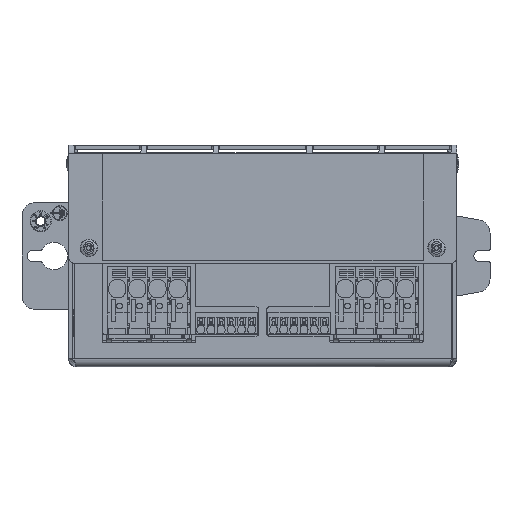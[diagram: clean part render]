
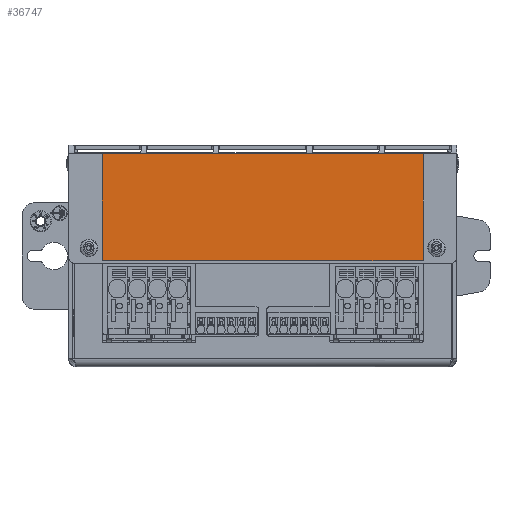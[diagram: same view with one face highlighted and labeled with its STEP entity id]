
A CAD part, front view. The second image highlights one B-rep face of the part: STEP entity #36747.
In plain terms, the highlighted planar face has unit normal (0, -1, 0) as drawn and (0, 0, 1) by its records, which use the part's own axes.
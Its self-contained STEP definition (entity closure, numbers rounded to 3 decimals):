
#1199 = LINE ( 'NONE', #109576, #131548 ) ;
#7418 = CARTESIAN_POINT ( 'NONE',  ( -60., -20., 0.1 ) ) ;
#10102 = AXIS2_PLACEMENT_3D ( 'NONE', #76496, #119944, #132078 ) ;
#19318 = EDGE_LOOP ( 'NONE', ( #132745, #62640, #80686, #79333 ) ) ;
#30245 = LINE ( 'NONE', #7418, #135810 ) ;
#34889 = CARTESIAN_POINT ( 'NONE',  ( -60., -20., 0.1 ) ) ;
#36747 = ADVANCED_FACE ( 'NONE', ( #82924 ), #63590, .T. ) ;
#44909 = VECTOR ( 'NONE', #122042, 1000. ) ;
#47139 = CARTESIAN_POINT ( 'NONE',  ( -60., 20., 0.1 ) ) ;
#62640 = ORIENTED_EDGE ( 'NONE', *, *, #113233, .T. ) ;
#63590 = PLANE ( 'NONE',  #10102 ) ;
#72588 = CARTESIAN_POINT ( 'NONE',  ( 60., 20., 0.1 ) ) ;
#73807 = DIRECTION ( 'NONE',  ( 1., 0., 0. ) ) ;
#74096 = CARTESIAN_POINT ( 'NONE',  ( 60., -20., 0.1 ) ) ;
#76283 = EDGE_CURVE ( 'NONE', #119666, #127298, #30245, .T. ) ;
#76496 = CARTESIAN_POINT ( 'NONE',  ( 0., 0., 0.1 ) ) ;
#79333 = ORIENTED_EDGE ( 'NONE', *, *, #76283, .T. ) ;
#80686 = ORIENTED_EDGE ( 'NONE', *, *, #113850, .T. ) ;
#82924 = FACE_OUTER_BOUND ( 'NONE', #19318, .T. ) ;
#86048 = DIRECTION ( 'NONE',  ( 0., -1., 0. ) ) ;
#87347 = DIRECTION ( 'NONE',  ( 0., 1., 0. ) ) ;
#94891 = VECTOR ( 'NONE', #87347, 1000. ) ;
#97374 = VERTEX_POINT ( 'NONE', #115104 ) ;
#108712 = LINE ( 'NONE', #140844, #94891 ) ;
#109197 = LINE ( 'NONE', #47139, #44909 ) ;
#109576 = CARTESIAN_POINT ( 'NONE',  ( -60., 20., 0.1 ) ) ;
#113233 = EDGE_CURVE ( 'NONE', #119805, #97374, #109197, .T. ) ;
#113850 = EDGE_CURVE ( 'NONE', #97374, #119666, #1199, .T. ) ;
#115104 = CARTESIAN_POINT ( 'NONE',  ( -60., 20., 0.1 ) ) ;
#115196 = EDGE_CURVE ( 'NONE', #127298, #119805, #108712, .T. ) ;
#119666 = VERTEX_POINT ( 'NONE', #34889 ) ;
#119805 = VERTEX_POINT ( 'NONE', #72588 ) ;
#119944 = DIRECTION ( 'NONE',  ( 0., 0., 1. ) ) ;
#122042 = DIRECTION ( 'NONE',  ( -1., 0., 0. ) ) ;
#127298 = VERTEX_POINT ( 'NONE', #74096 ) ;
#131548 = VECTOR ( 'NONE', #86048, 1000. ) ;
#132078 = DIRECTION ( 'NONE',  ( 1., 0., 0. ) ) ;
#132745 = ORIENTED_EDGE ( 'NONE', *, *, #115196, .T. ) ;
#135810 = VECTOR ( 'NONE', #73807, 1000. ) ;
#140844 = CARTESIAN_POINT ( 'NONE',  ( 60., 20., 0.1 ) ) ;
